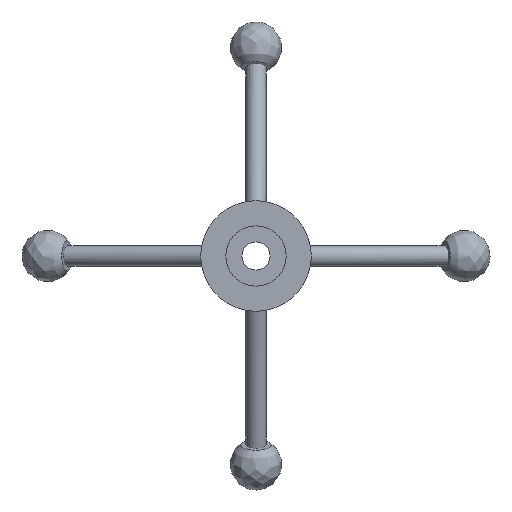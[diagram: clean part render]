
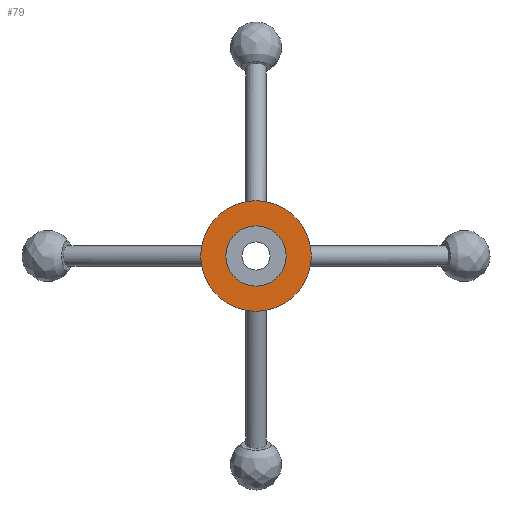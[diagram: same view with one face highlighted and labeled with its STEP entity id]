
A CAD part, front view. The second image highlights one B-rep face of the part: STEP entity #79.
In plain terms, the highlighted planar face has unit normal (0, -1, 0).
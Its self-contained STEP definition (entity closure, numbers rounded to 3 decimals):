
#79 = ADVANCED_FACE( '', ( #107, #108 ), #109, .F. );
#107 = FACE_BOUND( '', #202, .T. );
#108 = FACE_OUTER_BOUND( '', #203, .T. );
#109 = PLANE( '', #204 );
#202 = EDGE_LOOP( '', ( #370 ) );
#203 = EDGE_LOOP( '', ( #371 ) );
#204 = AXIS2_PLACEMENT_3D( '', #372, #373, #374 );
#370 = ORIENTED_EDGE( '', *, *, #446, .F. );
#371 = ORIENTED_EDGE( '', *, *, #447, .T. );
#372 = CARTESIAN_POINT( '', ( 27.5, 10., 0. ) );
#373 = DIRECTION( '', ( 0., 1., 0. ) );
#374 = DIRECTION( '', ( 0., 0., 1. ) );
#446 = EDGE_CURVE( '', #473, #473, #474, .T. );
#447 = EDGE_CURVE( '', #475, #475, #476, .T. );
#473 = VERTEX_POINT( '', #584 );
#474 = CIRCLE( '', #585, 15. );
#475 = VERTEX_POINT( '', #586 );
#476 = CIRCLE( '', #587, 27.5 );
#584 = CARTESIAN_POINT( '', ( 0., 10., -15. ) );
#585 = AXIS2_PLACEMENT_3D( '', #839, #840, #841 );
#586 = CARTESIAN_POINT( '', ( 0., 10., -27.5 ) );
#587 = AXIS2_PLACEMENT_3D( '', #842, #843, #844 );
#839 = CARTESIAN_POINT( '', ( 0., 10., 0. ) );
#840 = DIRECTION( '', ( 0., -1., 0. ) );
#841 = DIRECTION( '', ( 0., 0., -1. ) );
#842 = CARTESIAN_POINT( '', ( 0., 10., 0. ) );
#843 = DIRECTION( '', ( 0., -1., 0. ) );
#844 = DIRECTION( '', ( 0., 0., -1. ) );
